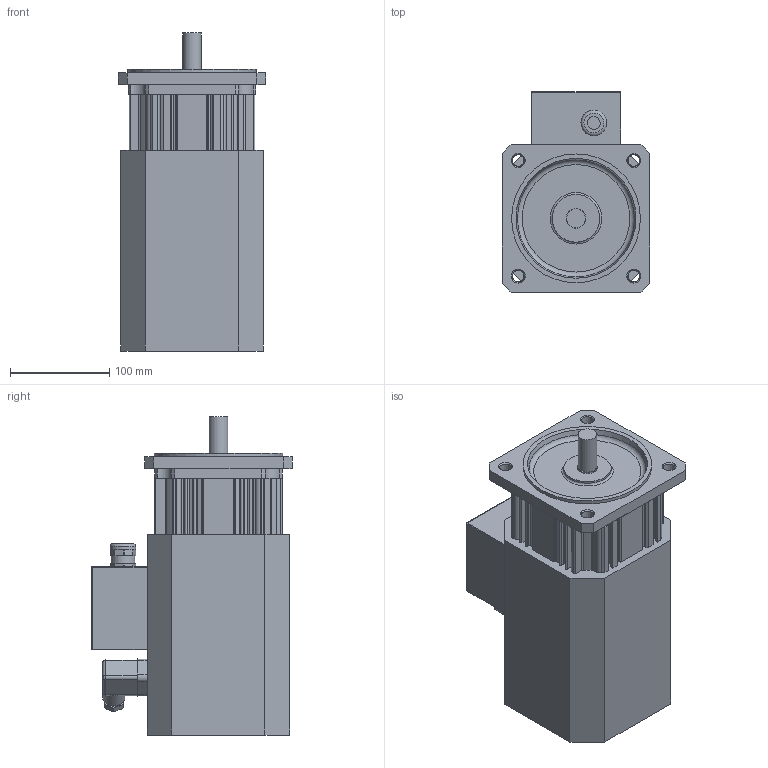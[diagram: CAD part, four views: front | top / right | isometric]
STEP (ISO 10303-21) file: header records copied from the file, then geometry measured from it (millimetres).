
FILE_DESCRIPTION(/* description */ (''),/* implementation_level */ '2;1');
FILE_NAME(/* name */ 'KSA648_FS',/* time_stamp */ '2009-02-26T15:40:45+01:00',/* author */ (''),/* organization */ (''),/* preprocessor_version */ 'ST-DEVELOPER v8',/* originating_system */ 'UNIGRAPHICS SOLUTIONS - UNIGRAPHICS 18.0',/* authorisation */ '');
FILE_SCHEMA (('AUTOMOTIVE_DESIGN { 1 2 10303 214 0 1 1 1 }'));
Length unit declared in the file: millimetre
Products named in the file (7): 0280391350_0; 014146_0; 014145_0; LagerschAS_0; 089106X_0; Klemmenkasten_0; KSA648_FS_0
Assembly tree (6 placements, depth 3):
  KSA648_FS_0
    089106X_0
    LagerschAS_0
    Klemmenkasten_0
      0280391350_0
    014145_0
    014146_0
Bounding box: 149 x 202.35 x 321 mm (x, y, z)
Volume: 5302644.3 mm3; surface area: 441006.9 mm2
Topology: 7 solids, 7 shells, 596 faces, 1638 edges, 1069 vertices
Faces by surface type: cylinder 302, plane 262, cone 16, sphere 8, torus 4, bspline 4
Full cylindrical faces by diameter (mm): 3.2 x1, 3.5 x4, 4.5 x1, 5 x2, 6.5 x4, 13 x2, 17 x1, 18 x1, 19 x1, 20 x2, 22.5 x1, 24 x1, 26 x1, 48 x1, 119.7 x2, 122 x1, 130 x1
Entity records: 19071 total; most frequent: DIRECTION 3408, CARTESIAN_POINT 3368, ORIENTED_EDGE 3154, EDGE_CURVE 1577, AXIS2_PLACEMENT_3D 1248, VERTEX_POINT 1059, LINE 912, VECTOR 912
